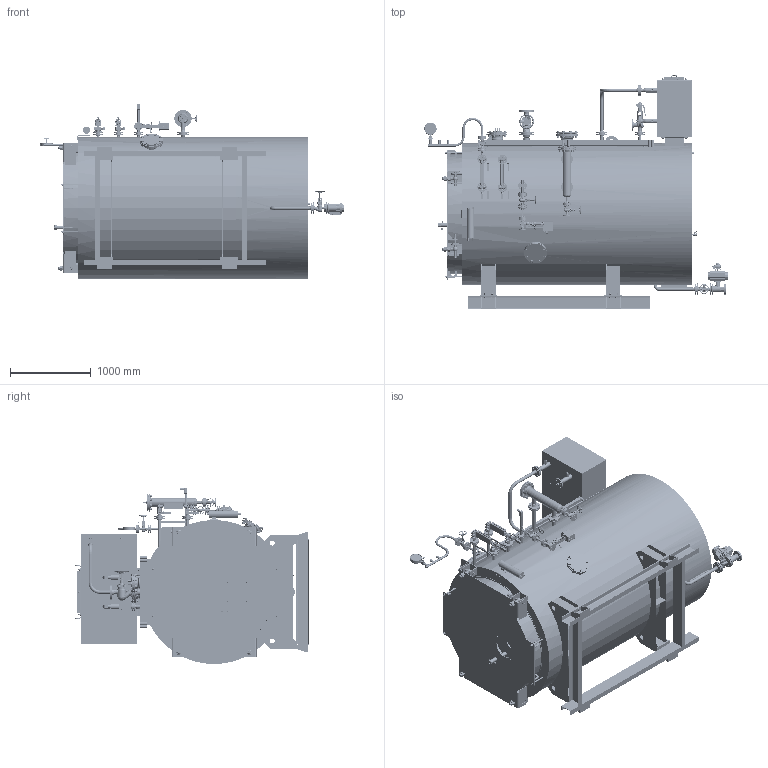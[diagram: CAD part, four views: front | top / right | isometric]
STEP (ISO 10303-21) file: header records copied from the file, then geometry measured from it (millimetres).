
FILE_DESCRIPTION(('STEP AP214'), '1');
FILE_NAME('Êîòåë IGNIS P-1000 8áàð ñ îáâÿçêîé óïð (10.25)', '', ('UNSPECIFIED'), ('UNSPECIFIED'), 'ASCON STEP Converter 1.6', 'ASCON Math Kernel', '');
FILE_SCHEMA(('AUTOMOTIVE_DESIGN { 1 0 10303 214 3 1 1}'));
Length unit declared in the file: millimetre
Bounding box: 3748 x 2896.27 x 2177 mm (x, y, z)
Volume: 7516433996.2 mm3; surface area: 56383839.1 mm2
Topology: 69 solids, 75 shells, 11467 faces, 28548 edges, 18036 vertices
Faces by surface type: plane 5923, cylinder 3488, cone 1134, bspline 457, torus 301, sphere 116, extrusion 46, revolution 2
Full cylindrical faces by diameter (mm): 1.425 x1, 3 x2, 3.014 x1, 3.6 x8, 4 x2, 4.917 x2, 5 x17, 5.966 x1, 6 x17, 6.5 x4, 6.6 x4, 6.647 x4, 8 x18, 8.376 x4, 8.4 x6, 9 x7, 10 x24, 10.106 x14, 10.492 x2, 11 x5, 11.5 x2, 11.63 x6, 12 x85, 12.5 x8, 13 x14, 13.5 x30, 14 x94, 14.2 x1, 15 x1, 15.5 x4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
Entity records: 614721 total; most frequent: CARTESIAN_POINT 261334, ORIENTED_EDGE 52672, DIRECTION 52096, EDGE_CURVE 26336, AXIS2_PLACEMENT_3D 19843, VERTEX_POINT 17942, EDGE_LOOP 15435, VECTOR 12408
